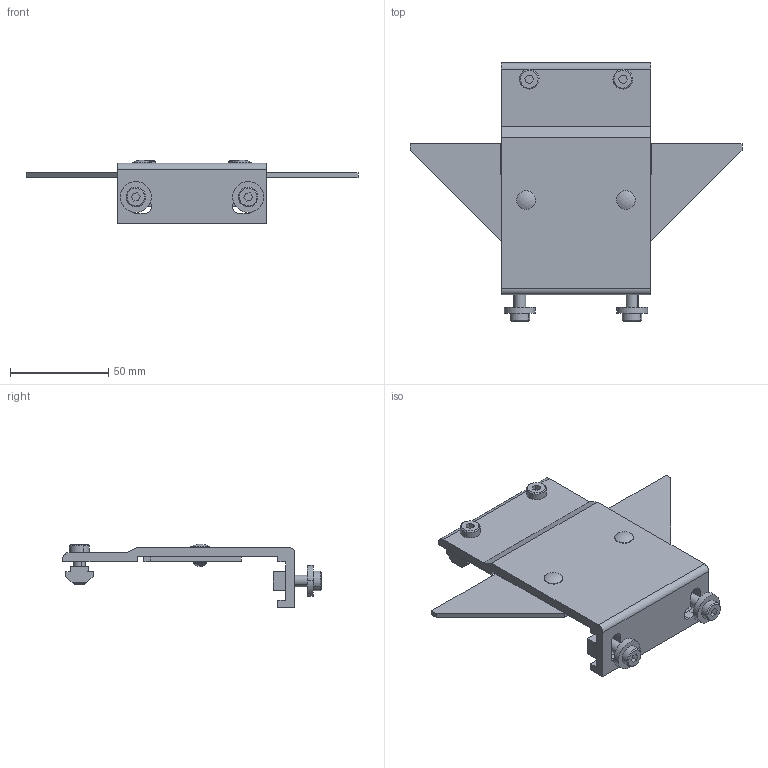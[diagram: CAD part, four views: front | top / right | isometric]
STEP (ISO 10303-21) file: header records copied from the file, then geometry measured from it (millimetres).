
FILE_DESCRIPTION((''),'2;1');
FILE_NAME('207526_ASM','2023-02-27T',('jenni.wallner'),(''),'PRO/ENGINEER BY PARAMETRIC TECHNOLOGY CORPORATION, 2012420','PRO/ENGINEER BY PARAMETRIC TECHNOLOGY CORPORATION, 2012420','');
FILE_SCHEMA(('CONFIG_CONTROL_DESIGN'));
Length unit declared in the file: inch
Products named in the file (10): 9506XXM_950620M; 605279P; 914-006; 300150M_300150M; 9506XXM_950616M; 202394; 202303; 240835; ASM0001_ASM; 207526_ASM
Assembly tree (13 placements, depth 3):
  207526_ASM
    ASM0001_ASM
      9506XXM_950620M  x2
      605279P  x2
      914-006  x2
      300150M_300150M
      9506XXM_950616M  x2
      202394
      202303
      240835
Bounding box: 168.91 x 131.46 x 32.31 mm (x, y, z)
Volume: 81824.1 mm3; surface area: 46763.6 mm2
Topology: 12 solids, 12 shells, 212 faces, 514 edges, 334 vertices
Faces by surface type: plane 112, cylinder 78, cone 16, bspline 4, sphere 2
Entity records: 5225 total; most frequent: DIRECTION 916, CARTESIAN_POINT 915, ORIENTED_EDGE 804, EDGE_CURVE 402, AXIS2_PLACEMENT_3D 322, VECTOR 272, LINE 272, VERTEX_POINT 265
